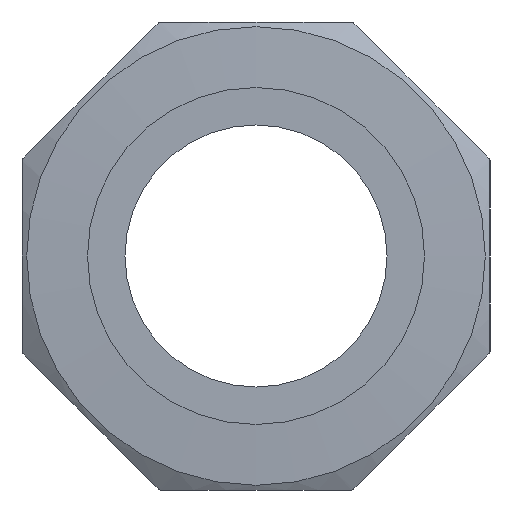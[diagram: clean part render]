
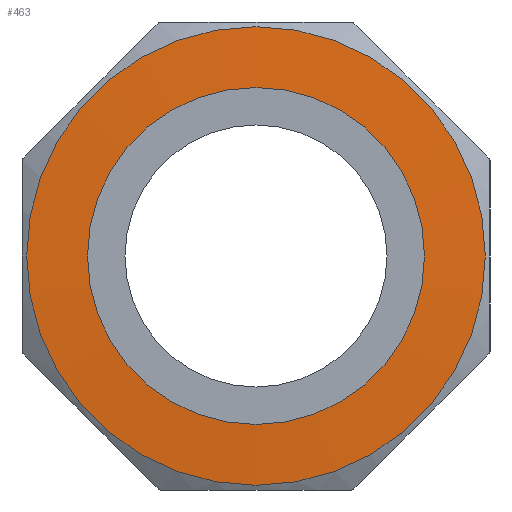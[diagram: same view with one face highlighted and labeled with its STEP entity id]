
A CAD part, left-side view. The second image highlights one B-rep face of the part: STEP entity #463.
In plain terms, the highlighted conical face has half-angle 87 degrees and reference radius 10.625 mm.
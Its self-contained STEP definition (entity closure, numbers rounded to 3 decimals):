
#39=FACE_BOUND('',#143,.T.);
#68=CIRCLE('',#520,9.);
#69=CIRCLE('',#522,12.25);
#75=CONICAL_SURFACE('',#521,10.625,87.);
#102=FACE_OUTER_BOUND('',#142,.T.);
#142=EDGE_LOOP('',(#400));
#143=EDGE_LOOP('',(#401));
#241=VERTEX_POINT('',#822);
#242=VERTEX_POINT('',#825);
#301=EDGE_CURVE('',#241,#241,#68,.T.);
#302=EDGE_CURVE('',#242,#242,#69,.T.);
#400=ORIENTED_EDGE('',*,*,#302,.F.);
#401=ORIENTED_EDGE('',*,*,#301,.T.);
#463=ADVANCED_FACE('',(#102,#39),#75,.T.);
#520=AXIS2_PLACEMENT_3D('',#823,#647,#648);
#521=AXIS2_PLACEMENT_3D('',#824,#649,#650);
#522=AXIS2_PLACEMENT_3D('',#826,#651,#652);
#647=DIRECTION('center_axis',(1.,0.,0.));
#648=DIRECTION('ref_axis',(0.,1.,0.));
#649=DIRECTION('center_axis',(1.,0.,0.));
#650=DIRECTION('ref_axis',(0.,1.,0.));
#651=DIRECTION('center_axis',(1.,0.,0.));
#652=DIRECTION('ref_axis',(0.,1.,0.));
#822=CARTESIAN_POINT('',(-1.25,9.,0.));
#823=CARTESIAN_POINT('Origin',(-1.25,0.,0.));
#824=CARTESIAN_POINT('Origin',(-1.165,0.,0.));
#825=CARTESIAN_POINT('',(-1.08,12.25,0.));
#826=CARTESIAN_POINT('Origin',(-1.08,0.,0.));
